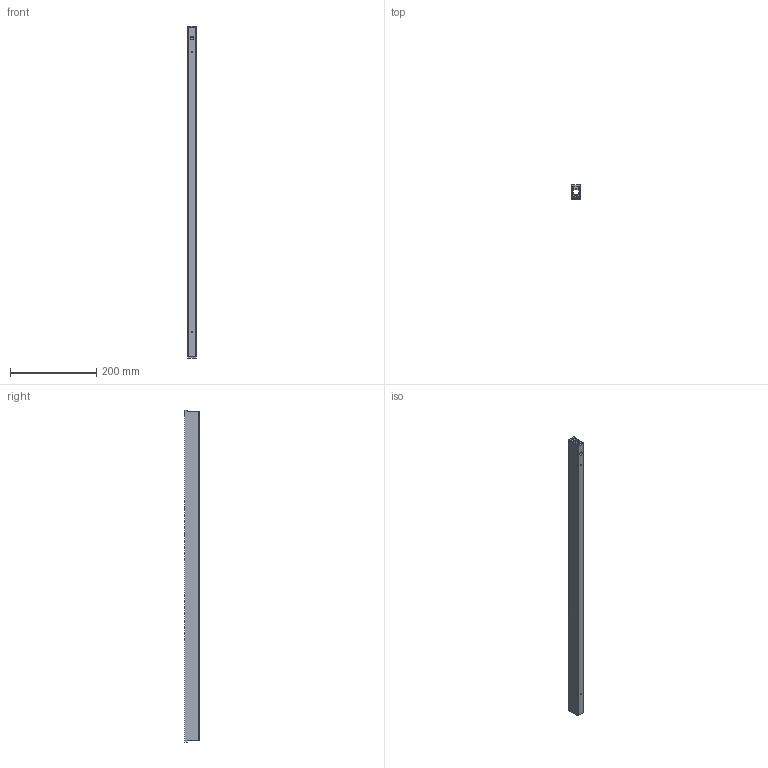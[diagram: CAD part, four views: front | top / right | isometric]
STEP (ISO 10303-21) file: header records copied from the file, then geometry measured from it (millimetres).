
FILE_DESCRIPTION((''),'2;1');
FILE_NAME('RNC_SLIM_520_SW0002','2025-07-24T11:40:31',('Piccioli'),(''),'CREO PARAMETRIC BY PTC INC, 2025010','CREO PARAMETRIC BY PTC INC, 2025010','');
FILE_SCHEMA(('CONFIG_CONTROL_DESIGN'));
Length unit declared in the file: millimetre
Products named in the file (1): RNC_SLIM_520_SW0002
Bounding box: 20 x 32.5 x 768 mm (x, y, z)
Surface area: 116523.8 mm2 (no closed solid volume)
Topology: 0 solids, 16 shells, 59 faces, 447 edges, 395 vertices
Faces by surface type: plane 41, cylinder 18
Entity records: 5754 total; most frequent: CARTESIAN_POINT 2660, ORIENTED_EDGE 565, DIRECTION 523, EDGE_CURVE 447, VERTEX_POINT 395, VECTOR 223, LINE 223, AXIS2_PLACEMENT_3D 150
